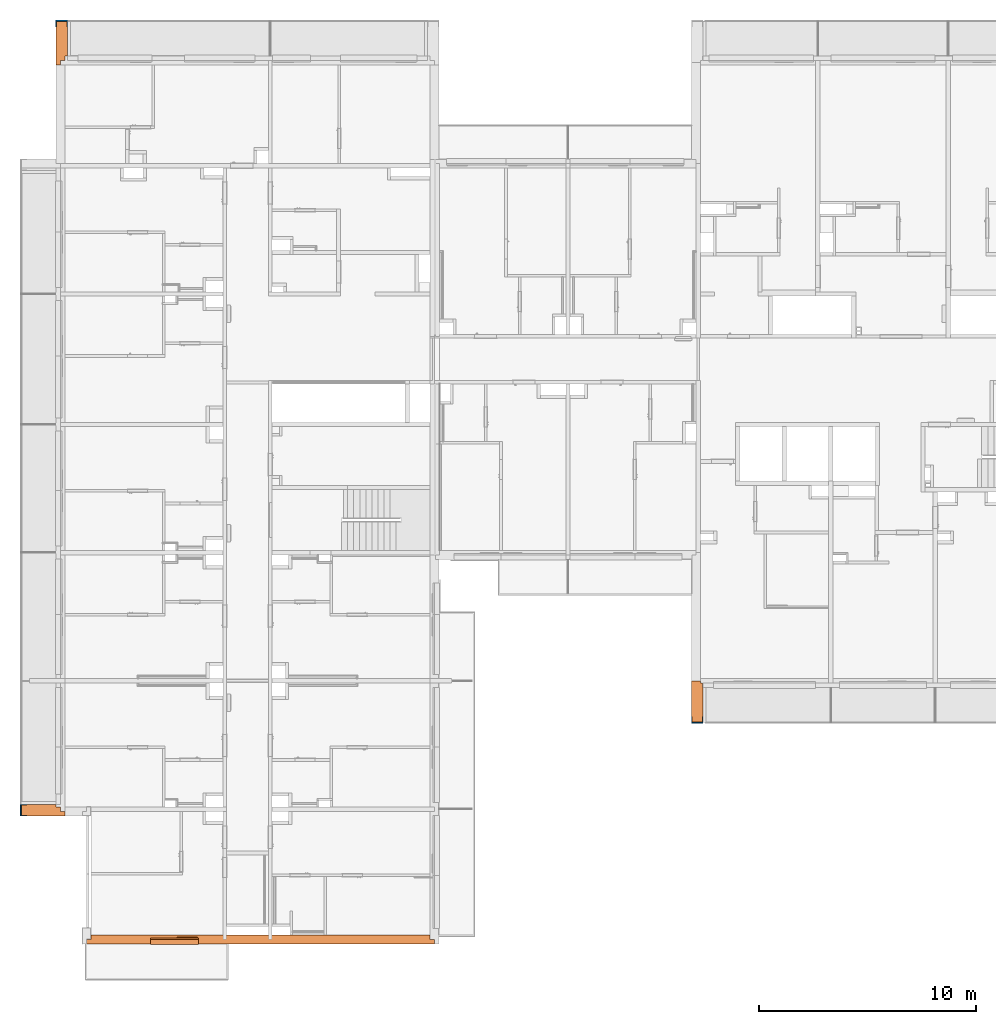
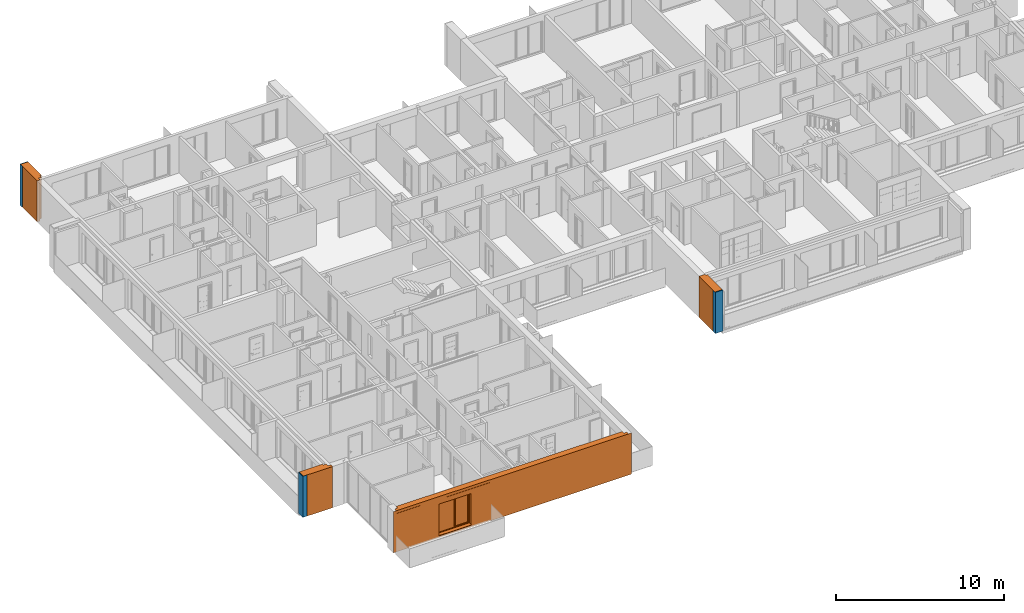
# One storey, part 47 of 66: 5 proxies, 3 walls, 4 openings.
"""IFC2X3 building model written with IfcOpenShell, lengths in millimetres."""

from ifc_helpers import new_model, entity, si_unit, converted_unit, derived_unit, money_unit, direction, frame, origin_with_axes, origin_2d_with_axis, place, context, subcontext, project, spatial, rectangle, extrude, open_shell, faceted_brep, surface_model, source, transform, mapped, material, material_list, type_object, element, fill, save


model = new_model("IFC2X3")

# Units and contexts
model_context = context("Model", 3, precision=0.01, world=origin_with_axes(), true_north=direction((0.34421633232, 0.938890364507)))
body_context = subcontext(model_context, "Body", "Model", "MODEL_VIEW")
ifc_project = project(units=[si_unit("LENGTHUNIT", "METRE", prefix="MILLI"), si_unit("AREAUNIT", "SQUARE_METRE"), si_unit("VOLUMEUNIT", "CUBIC_METRE"), converted_unit("PLANEANGLEUNIT", "DEGREE", entity("IfcPlaneAngleMeasure", 0.0174532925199), si_unit("PLANEANGLEUNIT", "RADIAN"), dimensions=[0, 0, 0, 0, 0, 0, 0]), si_unit("SOLIDANGLEUNIT", "STERADIAN"), money_unit("USD"), converted_unit("TIMEUNIT", "Year", entity("IfcTimeMeasure", 31556926.0), si_unit("TIMEUNIT", "SECOND"), dimensions=[0, 0, 1, 0, 0, 0, 0]), si_unit("MASSUNIT", "GRAM", prefix="KILO"), si_unit("THERMODYNAMICTEMPERATUREUNIT", "DEGREE_CELSIUS"), si_unit("LUMINOUSINTENSITYUNIT", "LUMEN"), si_unit("ENERGYUNIT", "JOULE", prefix="MEGA"), derived_unit("THERMALCONDUCTANCEUNIT", [(si_unit("POWERUNIT", "WATT"), 1), (si_unit("LENGTHUNIT", "METRE"), -1), (si_unit("THERMODYNAMICTEMPERATUREUNIT", "KELVIN"), -1)]), derived_unit("SPECIFICHEATCAPACITYUNIT", [(si_unit("ENERGYUNIT", "JOULE"), 1), (si_unit("MASSUNIT", "GRAM", prefix="KILO"), -1), (si_unit("THERMODYNAMICTEMPERATUREUNIT", "KELVIN"), -1)]), derived_unit("MASSDENSITYUNIT", [(si_unit("MASSUNIT", "GRAM", prefix="KILO"), 1), (si_unit("VOLUMEUNIT", "CUBIC_METRE"), -1)])], contexts=[model_context])

# Site, building, storey
site_placement = place(None, origin_with_axes())
site = spatial("IfcSite", under=ifc_project, at=site_placement, Name="USTRONIE MORSKIE", CompositionType="ELEMENT")
building_placement = place(site_placement, origin_with_axes())
building = spatial("IfcBuilding", under=site, at=building_placement, Name="Budynek", CompositionType="ELEMENT")
storey_placement = place(building_placement, frame((0.0, 0.0, 10000.0), z_axis=(0.0, 0.0, 1.0), x_axis=(1.0, 0.0, 0.0)))
storey = spatial("IfcBuildingStorey", under=building, at=storey_placement, Name="PIĘTRO 3", CompositionType="ELEMENT", Elevation=10000.0)

# Proxies, opening
ifc_material_1 = material(Name="Tynk zewnętrzny")
ifc_material_2 = material(Name="Wełna ELEW")
ifc_material_3 = material(Name="Beton konstrukcyjny B25")
ifc_material_list_1 = material_list([ifc_material_1, ifc_material_2, ifc_material_3])
building_element_proxy_type_1 = type_object("IfcBuildingElementProxyType", Name="20+20 410", PredefinedType="NOTDEFINED")
proxy_1_placement = place(storey_placement, frame((367067.957311, 709201.199036, -160.0), z_axis=(0.0, 0.0, 1.0), x_axis=(-1.0, 0.0, 0.0)))
proxy_1 = element("IfcBuildingElementProxy", 1, at=proxy_1_placement, inside=storey, type_object=building_element_proxy_type_1, material=ifc_material_list_1, Name="SZ-01", context=body_context, shape_type="Brep", body=[
    faceted_brep([(15900.0368073, 299.99990748, 2800.0), (9450.03639181, 300.000003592, 2800.0), (9450.03639181, 300.000003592, 3000.0), (-300.000630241, 300.0, 3000.0), (-300.000630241, 300.0, 0.0), (9450.03639181, 300.0, 0.0), (9450.03639181, 300.0, 110.0), (15900.0363918, 300.0, 110.0), (15900.0363918, 300.0, 0.0), (16100.0363918, 300.0, 0.0), (16100.0363918, 300.0, 3000.0), (15900.0368073, 299.99990748, 3000.0), (15900.0368281, 310.0, 2800.0), (9450.03639181, 310.0, 2800.0), (9450.03639181, 310.0, 3000.0), (-300.000651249, 310.0, 3000.0), (-300.000651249, 310.0, 0.0), (9450.03639181, 310.0, 0.0), (9450.03639181, 310.0, 110.0), (15900.0363918, 310.0, 110.0), (15900.0363918, 310.0, 0.0), (16100.0363918, 310.0, 0.0), (16100.0363918, 310.0, 3000.0), (15900.0368281, 310.0, 3000.0)], [[[0, 1, 2, 3, 4, 5, 6, 7, 8, 9, 10, 11]], [[1, 0, 12, 13]], [[14, 2, 1, 13]], [[2, 14, 15, 3]], [[4, 3, 15, 16]], [[17, 5, 4, 16]], [[18, 6, 5, 17]], [[7, 6, 18, 19]], [[7, 19, 20, 8]], [[8, 20, 21, 9]], [[22, 10, 9, 21]], [[23, 11, 10, 22]], [[0, 11, 23, 12]], [[12, 23, 22, 21, 20, 19, 18, 17, 16, 15, 14, 13]]]),
    faceted_brep([(15900.0363918, 100.0, 3000.0), (15900.0363918, 300.0, 3000.0), (-100.000630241, 300.0, 3000.0), (-100.00021008, 100.0, 3000.0), (15900.0363918, 100.0, 0.0), (15900.0363918, 300.0, 0.0), (-100.000630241, 300.0, 0.0), (-100.00021008, 100.0, 0.0)], [[[0, 1, 2, 3]], [[1, 0, 4, 5]], [[1, 5, 6, 2]], [[7, 3, 2, 6]], [[4, 0, 3, 7]], [[5, 4, 7, 6]]]),
    faceted_brep([(9630.03639181, -100.0, 2800.0), (9630.03639181, -100.0, 0.0), (15700.0363918, -100.0, 0.0), (15700.0363918, -100.0, 3000.0), (100.00021008, -100.0, 3000.0), (100.00021008, -100.0, 0.0), (7370.03639181, -100.0, 0.0), (7370.03639181, -100.0, 2800.0), (7530.03639181, -100.0, 2800.0), (7530.03639181, -100.0, 0.0), (9470.03639181, -100.0, 0.0), (9470.03639181, -100.0, 2800.0), (9630.03639181, 100.0, 2800.0), (9630.03639181, 100.0, 0.0), (15700.0363918, 100.0, 0.0), (15700.0363918, 100.0, 3000.0), (99.9997899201, 100.0, 3000.0), (99.9997899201, 100.0, 0.0), (7370.03639181, 100.0, 0.0), (7370.03639181, 100.0, 2800.0), (7530.03639181, 100.0, 2800.0), (7530.03639181, 100.0, 0.0), (9470.03639181, 100.0, 0.0), (9470.03639181, 100.0, 2800.0)], [[[0, 1, 2, 3, 4, 5, 6, 7, 8, 9, 10, 11]], [[1, 0, 12, 13]], [[1, 13, 14, 2]], [[15, 3, 2, 14]], [[3, 15, 16, 4]], [[5, 4, 16, 17]], [[18, 6, 5, 17]], [[7, 6, 18, 19]], [[8, 7, 19, 20]], [[9, 8, 20, 21]], [[22, 10, 9, 21]], [[11, 10, 22, 23]], [[0, 11, 23, 12]], [[23, 22, 21, 20, 19, 18, 17, 16, 15, 14, 13, 12]]]),
])
opening_1_placement = place(proxy_1_placement, frame((11860.0397091, 0.0, 160.0), z_axis=(0.0, 0.0, 1.0), x_axis=(1.0, 0.0, 0.0)))
opening_1 = element("IfcOpeningElement", 2, at=opening_1_placement, cuts=proxy_1, Name="Wz.01", context=body_context, shape_type="SweptSolid", body=[
    extrude(rectangle(XDim=2220.00663467, YDim=2300.0, at=origin_2d_with_axis()), frame((0.0, 99.9999999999, 1150.0), z_axis=(0.0, -1.0, 0.0), x_axis=(-1.0, 0.0, 0.0)), (0.0, 0.0, -1.0), 620.0),
    extrude(rectangle(XDim=2220.00663467, YDim=2300.0, at=origin_2d_with_axis()), frame((0.0, 100.0, 1150.0), z_axis=(0.0, 1.0, 0.0), x_axis=(-1.0, 0.0, 0.0)), (0.0, 0.0, -1.0), 610.0),
])
building_element_proxy_type_2 = type_object("IfcBuildingElementProxyType", Name="Okno podwójne 23", PredefinedType="NOTDEFINED")
shared_shape_1 = source(origin_with_axes(), body_context, "Body", "SurfaceModel", [
    surface_model("IfcShellBasedSurfaceModel", [(-1110.00331734, -66.0, 50.0), (-1110.00331734, -66.0, 40.0), (1110.00331734, -66.0, 40.0), (1110.00331734, -66.0, 50.0), (-1110.00331734, -305.0, 28.5714285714), (1110.00331734, -305.0, 28.5714285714), (-1110.00331734, -305.0, 8.57142857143), (1110.00331734, -305.0, 8.57142857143), (-1110.00331734, -295.0, 18.5714285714), (1110.00331734, -295.0, 18.5714285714)], [open_shell([[[0, 1, 2, 3]], [[1, 4, 5, 2]], [[4, 6, 7, 5]], [[6, 8, 9, 7]]])]),
    faceted_brep([(1040.00331734, -25.0, 2230.0), (1040.00331734, -65.0, 2230.0), (1110.00331734, -65.0, 2230.0), (1110.00331734, 0.0, 2230.0), (1065.00331734, 0.0, 2230.0), (1065.00331734, -25.0, 2230.0), (1040.00331734, -25.0, 70.0), (1040.00331734, -65.0, 70.0), (1110.00331734, -65.0, 70.0), (1110.00331734, 0.0, 70.0), (1065.00331734, 0.0, 70.0), (1065.00331734, -25.0, 70.0)], [[[0, 1, 2, 3, 4, 5]], [[6, 7, 1, 0]], [[8, 2, 1, 7]], [[9, 3, 2, 8]], [[4, 3, 9, 10]], [[10, 11, 5, 4]], [[5, 11, 6, 0]], [[11, 10, 9, 8, 7, 6]]]),
    faceted_brep([(112.503317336, 0.0, 2230.0), (72.5033173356, 0.0, 2230.0), (72.5033173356, -65.0, 2230.0), (137.503317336, -65.0, 2230.0), (137.503317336, -25.0, 2230.0), (112.503317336, -25.0, 2230.0), (112.503317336, 0.0, 70.0), (72.5033173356, 0.0, 70.0), (72.5033173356, -65.0, 70.0), (137.503317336, -65.0, 70.0), (137.503317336, -25.0, 70.0), (112.503317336, -25.0, 70.0)], [[[0, 1, 2, 3, 4, 5]], [[6, 7, 1, 0]], [[1, 7, 8, 2]], [[9, 3, 2, 8]], [[4, 3, 9, 10]], [[10, 11, 5, 4]], [[5, 11, 6, 0]], [[11, 10, 9, 8, 7, 6]]]),
    faceted_brep([(1040.00331734, -25.0, 70.0), (1040.00331734, -65.0, 70.0), (1110.00331734, -65.0, 70.0), (1110.00331734, 0.0, 70.0), (1065.00331734, 0.0, 70.0), (1065.00331734, -25.0, 70.0), (137.503317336, -25.0, 70.0), (137.503317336, -65.0, 70.0), (-1110.00331734, -65.0, 70.0), (-1110.00331734, -65.0, 0.0), (1110.00331734, -65.0, 0.0), (72.5033173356, -65.0, 70.0), (-1040.00331734, -65.0, 70.0), (1110.00331734, 0.0, 0.0), (112.503317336, 0.0, 45.0), (1065.00331734, 0.0, 45.0), (-1110.00331734, 0.0, 0.0), (-1110.00331734, 0.0, 70.0), (-1040.00331734, 0.0, 70.0), (72.5033173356, 0.0, 70.0), (112.503317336, 0.0, 70.0), (1065.00331734, -25.0, 45.0), (112.503317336, -25.0, 45.0), (112.503317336, -25.0, 70.0)], [[[0, 1, 2, 3, 4, 5]], [[6, 7, 1, 0]], [[8, 9, 10, 2, 1, 7, 11, 12]], [[13, 3, 2, 10]], [[14, 15, 4, 3, 13, 16, 17, 18, 19, 20]], [[15, 21, 5, 4]], [[5, 21, 22, 23, 6, 0]], [[23, 20, 19, 11, 7, 6]], [[17, 16, 9, 8]], [[16, 13, 10, 9]], [[19, 18, 12, 11]], [[18, 17, 8, 12]], [[14, 22, 21, 15]], [[23, 22, 14, 20]]]),
    faceted_brep([(112.503317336, 0.0, 2230.0), (72.5033173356, 0.0, 2230.0), (-1040.00331734, 0.0, 2230.0), (-1110.00331734, 0.0, 2230.0), (-1110.00331734, 0.0, 2300.0), (1110.00331734, 0.0, 2300.0), (1110.00331734, 0.0, 2230.0), (1065.00331734, 0.0, 2230.0), (1065.00331734, 0.0, 2255.0), (112.503317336, 0.0, 2255.0), (112.503317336, -25.0, 2230.0), (137.503317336, -25.0, 2230.0), (137.503317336, -65.0, 2230.0), (72.5033173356, -65.0, 2230.0), (-1040.00331734, -65.0, 2230.0), (-1110.00331734, -65.0, 2230.0), (-1110.00331734, -65.0, 2300.0), (1110.00331734, -65.0, 2300.0), (1110.00331734, -65.0, 2230.0), (1065.00331734, -25.0, 2230.0), (1040.00331734, -65.0, 2230.0), (1040.00331734, -25.0, 2230.0), (1065.00331734, -25.0, 2255.0), (112.503317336, -25.0, 2255.0)], [[[0, 1, 2, 3, 4, 5, 6, 7, 8, 9]], [[10, 11, 12, 13, 1, 0]], [[2, 1, 13, 14]], [[3, 2, 14, 15]], [[4, 3, 15, 16]], [[5, 4, 16, 17]], [[6, 5, 17, 18]], [[19, 7, 6, 18, 20, 21]], [[7, 19, 22, 8]], [[8, 22, 23, 9]], [[9, 23, 10, 0]], [[21, 11, 10, 23, 22, 19]], [[21, 20, 12, 11]], [[12, 20, 18, 17, 16, 15, 14, 13]]]),
    faceted_brep([(-1040.00331734, -65.0, 2230.0), (-1040.00331734, 0.0, 2230.0), (-1110.00331734, 0.0, 2230.0), (-1110.00331734, -65.0, 2230.0), (-1040.00331734, -65.0, 70.0), (-1040.00331734, 0.0, 70.0), (-1110.00331734, 0.0, 70.0), (-1110.00331734, -65.0, 70.0)], [[[0, 1, 2, 3]], [[4, 5, 1, 0]], [[1, 5, 6, 2]], [[3, 2, 6, 7]], [[0, 3, 7, 4]], [[7, 6, 5, 4]]]),
    surface_model("IfcShellBasedSurfaceModel", [(-1040.00331734, -35.0, 70.0), (72.5033173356, -35.0, 70.0), (72.5033173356, -35.0, 2230.0), (-1040.00331734, -35.0, 2230.0)], [open_shell([[[0, 1, 2, 3]]])]),
    surface_model("IfcShellBasedSurfaceModel", [(-1040.00331734, -15.0, 70.0), (-1040.00331734, -15.0, 2230.0), (72.5033173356, -15.0, 2230.0), (72.5033173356, -15.0, 70.0)], [open_shell([[[0, 1, 2, 3]]])]),
    faceted_brep([(177.503317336, -25.0, 2190.0), (177.503317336, 40.0, 2190.0), (112.503317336, 40.0, 2190.0), (112.503317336, -25.0, 2190.0), (177.503317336, -25.0, 110.0), (177.503317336, 40.0, 110.0), (112.503317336, 40.0, 110.0), (112.503317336, -25.0, 110.0)], [[[0, 1, 2, 3]], [[4, 5, 1, 0]], [[1, 5, 6, 2]], [[3, 2, 6, 7]], [[0, 3, 7, 4]], [[7, 6, 5, 4]]]),
    faceted_brep([(1000.00331734, -25.0, 110.0), (1000.00331734, 40.0, 110.0), (1065.00331734, 40.0, 110.0), (1065.00331734, -25.0, 110.0), (1000.00331734, -25.0, 2190.0), (1000.00331734, 40.0, 2190.0), (1065.00331734, 40.0, 2190.0), (1065.00331734, -25.0, 2190.0)], [[[0, 1, 2, 3]], [[4, 5, 1, 0]], [[1, 5, 6, 2]], [[3, 2, 6, 7]], [[0, 3, 7, 4]], [[7, 6, 5, 4]]]),
    faceted_brep([(1065.00331734, -25.0, 45.0), (1065.00331734, 40.0, 45.0), (1065.00331734, 40.0, 110.0), (1065.00331734, -25.0, 110.0), (112.503317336, -25.0, 45.0), (112.503317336, 40.0, 45.0), (112.503317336, 40.0, 110.0), (177.503317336, 40.0, 110.0), (1000.00331734, 40.0, 110.0), (1000.00331734, -25.0, 110.0), (177.503317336, -25.0, 110.0), (112.503317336, -25.0, 110.0)], [[[0, 1, 2, 3]], [[4, 5, 1, 0]], [[1, 5, 6, 7, 8, 2]], [[3, 2, 8, 9]], [[0, 3, 9, 10, 11, 4]], [[11, 6, 5, 4]], [[10, 7, 6, 11]], [[9, 8, 7, 10]]]),
    faceted_brep([(112.503317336, -25.0, 2255.0), (112.503317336, 40.0, 2255.0), (112.503317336, 40.0, 2190.0), (112.503317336, -25.0, 2190.0), (1065.00331734, -25.0, 2255.0), (1065.00331734, 40.0, 2255.0), (1065.00331734, 40.0, 2190.0), (1000.00331734, 40.0, 2190.0), (177.503317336, 40.0, 2190.0), (177.503317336, -25.0, 2190.0), (1000.00331734, -25.0, 2190.0), (1065.00331734, -25.0, 2190.0)], [[[0, 1, 2, 3]], [[4, 5, 1, 0]], [[1, 5, 6, 7, 8, 2]], [[3, 2, 8, 9]], [[0, 3, 9, 10, 11, 4]], [[11, 6, 5, 4]], [[10, 7, 6, 11]], [[9, 8, 7, 10]]]),
    surface_model("IfcShellBasedSurfaceModel", [(177.503317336, -2.5, 110.0), (1000.00331734, -2.5, 110.0), (1000.00331734, -2.5, 2190.0), (177.503317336, -2.5, 2190.0)], [open_shell([[[0, 1, 2, 3]]])]),
    surface_model("IfcShellBasedSurfaceModel", [(177.503317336, 17.5, 110.0), (177.503317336, 17.5, 2190.0), (1000.00331734, 17.5, 2190.0), (1000.00331734, 17.5, 110.0)], [open_shell([[[0, 1, 2, 3]]])]),
])
proxy_2_placement = place(opening_1_placement, frame((1110.00331734, 0.0, 0.0), z_axis=(0.0, 0.0, 1.0), x_axis=(-1.0, 0.0, 0.0)))
proxy_2 = element("IfcBuildingElementProxy", 3, at=proxy_2_placement, inside=storey, type_object=building_element_proxy_type_2, Name="Wz.01", context=body_context, shape_type="MappedRepresentation", body=[
    mapped(shared_shape_1, transform((1110.00331734, -35.0, 0.0))),
])
fill(opening_1, proxy_2)

# Proxy, opening, wall
ifc_material_list_2 = material_list([ifc_material_1, ifc_material_2, ifc_material_3, ifc_material_2, ifc_material_1])
building_element_proxy_type_3 = type_object("IfcBuildingElementProxyType", Name="BALKON bok 01 520", PredefinedType="NOTDEFINED")
proxy_3_placement = place(storey_placement, frame((350067.920919, 749451.199036, -160.0), z_axis=(0.0, 0.0, 1.0), x_axis=(0.0, 1.0, 0.0)))
proxy_3 = element("IfcBuildingElementProxy", 4, at=proxy_3_placement, inside=storey, type_object=building_element_proxy_type_3, material=ifc_material_list_2, Name="Œciana-006", context=body_context, shape_type="Brep", body=[
    faceted_brep([(-100.0, 300.0, 3000.0), (1949.99981808, 300.0, 3000.0), (1949.99981808, 310.0, 3000.0), (-100.0, 310.0, 3000.0), (-100.0, 300.0, 0.0), (1949.99981808, 300.0, 0.0), (1949.99981808, 310.0, 0.0), (-100.0, 310.0, 0.0)], [[[0, 1, 2, 3]], [[4, 5, 1, 0]], [[2, 1, 5, 6]], [[3, 2, 6, 7]], [[4, 0, 3, 7]], [[7, 6, 5, 4]]]),
    faceted_brep([(-100.0, 100.0, 3000.0), (1949.99981808, 100.0, 3000.0), (1949.99981808, 300.0, 3000.0), (-100.0, 300.0, 3000.0), (-100.0, 100.0, 0.0), (1949.99981808, 100.0, 0.0), (1949.99981808, 300.0, 0.0), (-100.0, 300.0, 0.0)], [[[0, 1, 2, 3]], [[4, 5, 1, 0]], [[2, 1, 5, 6]], [[3, 2, 6, 7]], [[4, 0, 3, 7]], [[7, 6, 5, 4]]]),
    faceted_brep([(1949.99981808, -100.0, 3000.0), (1949.99981808, 100.0, 3000.0), (100.0, 100.0, 3000.0), (100.0, -100.0, 3000.0), (1949.99981808, -100.0, 0.0), (1949.99981808, 100.0, 0.0), (100.0, 100.0, 0.0), (100.0, -100.0, 0.0)], [[[0, 1, 2, 3]], [[0, 4, 5, 1]], [[1, 5, 6, 2]], [[3, 2, 6, 7]], [[4, 0, 3, 7]], [[5, 4, 7, 6]]]),
    faceted_brep([(1949.99981808, -200.0, 3000.0), (1949.99981808, -100.0, 3000.0), (300.0, -100.0, 3000.0), (300.0, -200.0, 3000.0), (1949.99981808, -200.0, 0.0), (1949.99981808, -100.0, 0.0), (300.0, -100.0, 0.0), (300.0, -200.0, 0.0)], [[[0, 1, 2, 3]], [[0, 4, 5, 1]], [[1, 5, 6, 2]], [[3, 2, 6, 7]], [[4, 0, 3, 7]], [[5, 4, 7, 6]]]),
    faceted_brep([(1899.84617112, -209.852530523, 3000.00002271), (1909.87684774, -209.852438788, 3000.0), (1909.87684909, -210.0, 3000.00001817), (1949.99981808, -210.0, 3000.0), (1949.99981808, -200.0, 3000.0), (310.0, -200.0, 3000.0), (310.0, -209.867070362, 3000.00002271), (310.0, -209.867070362, 2789.99999183), (1909.87684774, -209.852438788, 2789.99999183), (1909.87684909, -210.0, 2789.99999183), (310.0, -210.0, 2789.99999183), (310.0, -210.0, 0.0), (1949.99981808, -210.0, 0.0), (1949.99981808, -200.0, 0.0), (310.0, -200.0, 0.0)], [[[0, 1, 2, 3, 4, 5, 6]], [[0, 6, 7, 8, 1]], [[9, 2, 1, 8]], [[9, 10, 11, 12, 3, 2]], [[4, 3, 12, 13]], [[5, 4, 13, 14]], [[7, 6, 5, 14, 11, 10]], [[10, 9, 8, 7]], [[14, 13, 12, 11]]]),
])
opening_2_placement = place(proxy_3_placement, frame((1949.99981808, 0.0, 0.0), z_axis=(0.0, 0.0, 1.0), x_axis=(1.0, 0.0, 0.0)))
opening_2 = element("IfcOpeningElement", 5, at=opening_2_placement, cuts=proxy_3, Name="ZS1", context=body_context, shape_type="SweptSolid", body=[
    extrude(rectangle(XDim=9.99999999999, YDim=50.0000000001, at=origin_2d_with_axis()), frame((-25.0000000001, 305.0, 0.0), z_axis=(0.0, 0.0, 1.0), x_axis=(0.0, -1.0, 0.0)), (0.0, 0.0, 1.0), 3000.0),
    extrude(rectangle(XDim=9.99999999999, YDim=250.0, at=origin_2d_with_axis()), frame((-175.0, 305.0, 0.0), z_axis=(0.0, 0.0, 1.0), x_axis=(0.0, -1.0, 0.0)), (0.0, 0.0, 1.0), 3000.0),
    extrude(rectangle(XDim=9.99999999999, YDim=50.0, at=origin_2d_with_axis()), frame((-25.0, -205.0, 0.0), z_axis=(0.0, 0.0, 1.0), x_axis=(0.0, -1.0, 0.0)), (0.0, 0.0, 1.0), 3000.0),
    extrude(rectangle(XDim=9.99999999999, YDim=250.0, at=origin_2d_with_axis()), frame((-175.0, -205.0, 0.0), z_axis=(0.0, 0.0, 1.0), x_axis=(0.0, -1.0, 0.0)), (0.0, 0.0, 1.0), 3000.0),
    extrude(rectangle(XDim=500.0, YDim=50.0000000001, at=origin_2d_with_axis()), frame((-25.0000000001, 50.0, 0.0), z_axis=(0.0, 0.0, 1.0), x_axis=(0.0, -1.0, 0.0)), (0.0, 0.0, 1.0), 3000.0),
])
wall_type = type_object("IfcWallType", Name="Zakończenie zamknięte 23", PredefinedType="NOTDEFINED")
shared_shape_2 = source(origin_with_axes(), body_context, "Body", "Brep", [
    faceted_brep([(0.0, 0.0, 0.0), (0.0, -50.0, 0.0), (0.0, -50.0, 3000.0), (0.0, 0.0, 3000.0), (10.0, 0.0, 0.0), (10.0, -50.0, 0.0), (10.0, -50.0, 3000.0), (10.0, 0.0, 3000.0)], [[[0, 1, 2, 3]], [[4, 5, 1, 0]], [[5, 6, 2, 1]], [[6, 7, 3, 2]], [[7, 4, 0, 3]], [[4, 7, 6, 5]]]),
    faceted_brep([(0.0, -50.0, 0.0), (0.0, -300.0, 0.0), (0.0, -300.0, 3000.0), (0.0, -50.0, 3000.0), (10.0, -50.0, 0.0), (10.0, -300.0, 0.0), (10.0, -300.0, 3000.0), (10.0, -50.0, 3000.0)], [[[0, 1, 2, 3]], [[4, 5, 1, 0]], [[5, 6, 2, 1]], [[6, 7, 3, 2]], [[7, 4, 0, 3]], [[4, 7, 6, 5]]]),
    faceted_brep([(510.0, 0.0, 0.0), (510.0, -50.0, 0.0), (510.0, -50.0, 3000.0), (510.0, 0.0, 3000.0), (520.0, 0.0, 0.0), (520.0, -50.0, 0.0), (520.0, -50.0, 3000.0), (520.0, 0.0, 3000.0)], [[[0, 1, 2, 3]], [[4, 5, 1, 0]], [[5, 6, 2, 1]], [[6, 7, 3, 2]], [[7, 4, 0, 3]], [[4, 7, 6, 5]]]),
    faceted_brep([(510.0, -50.0, 0.0), (510.0, -300.0, 0.0), (510.0, -300.0, 3000.0), (510.0, -50.0, 3000.0), (520.0, -50.0, 0.0), (520.0, -300.0, 0.0), (520.0, -300.0, 3000.0), (520.0, -50.0, 3000.0)], [[[0, 1, 2, 3]], [[4, 5, 1, 0]], [[5, 6, 2, 1]], [[6, 7, 3, 2]], [[7, 4, 0, 3]], [[4, 7, 6, 5]]]),
    faceted_brep([(10.0, 0.0, 0.0), (10.0, -50.0, 0.0), (10.0, -50.0, 3000.0), (10.0, 0.0, 3000.0), (510.0, 0.0, 0.0), (510.0, -50.0, 0.0), (510.0, -50.0, 3000.0), (510.0, 0.0, 3000.0)], [[[0, 1, 2, 3]], [[4, 5, 1, 0]], [[5, 6, 2, 1]], [[6, 7, 3, 2]], [[7, 4, 0, 3]], [[4, 7, 6, 5]]]),
])
wall_1_placement = place(opening_2_placement, frame((150.0, 0.0, 0.0), z_axis=(0.0, 0.0, 1.0), x_axis=(-1.0, 0.0, 0.0)))
wall_1 = element("IfcWall", 6, at=wall_1_placement, inside=storey, type_object=wall_type, material=ifc_material_1, Name="ZS1", context=body_context, shape_type="MappedRepresentation", body=[
    mapped(shared_shape_2, transform((150.0, -310.0, 0.0), x_axis=(0.0, 1.0, 0.0), y_axis=(-1.0, 0.0, 0.0), z_axis=(0.0, 0.0, 1.0))),
])
fill(opening_2, wall_1)

proxy_4_placement = place(storey_placement, frame((379317.920919, 721001.199036, -160.0), z_axis=(0.0, 0.0, 1.0), x_axis=(0.0, -1.0, 0.0)))
proxy_4 = element("IfcBuildingElementProxy", 7, at=proxy_4_placement, inside=storey, type_object=building_element_proxy_type_3, material=ifc_material_list_2, Name="Œciana-006", context=body_context, shape_type="Brep", body=[
    faceted_brep([(1949.99981809, 210.0, 0.0), (300.0, 210.0, 0.0), (300.0, 210.0, 3000.0), (1949.99981809, 210.0, 3000.0), (1949.99981809, 200.0, 0.0), (300.0, 200.0, 0.0), (300.0, 200.0, 3000.0), (1949.99981809, 200.0, 3000.0)], [[[0, 1, 2, 3]], [[4, 5, 1, 0]], [[5, 6, 2, 1]], [[3, 2, 6, 7]], [[3, 7, 4, 0]], [[7, 6, 5, 4]]]),
    faceted_brep([(100.0, 200.0, 0.0), (100.0, 200.0, 3000.0), (1949.99981809, 200.0, 3000.0), (1949.99981809, 200.0, 0.0), (100.0, 100.000005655, 3000.0), (100.0, 100.000005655, 0.0), (1949.99981809, 100.0, 3000.0), (1949.99981809, 100.0, 0.0)], [[[0, 1, 2, 3]], [[4, 1, 0, 5]], [[1, 4, 6, 2]], [[6, 7, 3, 2]], [[5, 0, 3, 7]], [[4, 5, 7, 6]]]),
    faceted_brep([(0.0, -100.0, 0.0), (0.0, 100.0, 0.0), (1949.99981809, 100.0, 0.0), (1949.99981809, -100.0, 0.0), (0.0, -100.0, 3000.0), (0.0, 100.0, 3000.0), (1949.99981809, 100.0, 3000.0), (1949.99981809, -100.0, 3000.0)], [[[0, 1, 2, 3]], [[4, 5, 1, 0]], [[1, 5, 6, 2]], [[7, 3, 2, 6]], [[4, 0, 3, 7]], [[5, 4, 7, 6]]]),
    faceted_brep([(0.0, -100.0, 0.0), (1949.99981809, -100.0, 0.0), (1949.99981809, -300.0, 0.0), (0.0, -300.0, 0.0), (0.0, -100.0, 3000.0), (1949.99981809, -100.0, 3000.0), (1949.99981809, -300.0, 3000.0), (0.0, -300.0, 3000.0)], [[[0, 1, 2, 3]], [[4, 5, 1, 0]], [[2, 1, 5, 6]], [[3, 2, 6, 7]], [[4, 0, 3, 7]], [[7, 6, 5, 4]]]),
    faceted_brep([(0.0, -300.0, 0.0), (1949.99981809, -300.0, 0.0), (1949.99981809, -310.0, 0.0), (0.0, -310.0, 0.0), (0.0, -300.0, 3000.0), (1949.99981809, -300.0, 3000.0), (1949.99981809, -310.0, 3000.0), (0.0, -310.0, 3000.0)], [[[0, 1, 2, 3]], [[4, 5, 1, 0]], [[2, 1, 5, 6]], [[3, 2, 6, 7]], [[4, 0, 3, 7]], [[7, 6, 5, 4]]]),
])
opening_3_placement = place(proxy_4_placement, frame((1949.99981809, 0.0, 0.0), z_axis=(0.0, 0.0, 1.0), x_axis=(1.0, 0.0, 0.0)))
opening_3 = element("IfcOpeningElement", 8, at=opening_3_placement, cuts=proxy_4, Name="ZS1", context=body_context, shape_type="SweptSolid", body=[
    extrude(rectangle(XDim=9.99999999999, YDim=50.0000000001, at=origin_2d_with_axis()), frame((-25.0, 205.0, 0.0), z_axis=(0.0, 0.0, 1.0), x_axis=(0.0, -1.0, 0.0)), (0.0, 0.0, 1.0), 3000.0),
    extrude(rectangle(XDim=9.99999999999, YDim=250.0, at=origin_2d_with_axis()), frame((-175.0, 205.0, 0.0), z_axis=(0.0, 0.0, 1.0), x_axis=(0.0, -1.0, 0.0)), (0.0, 0.0, 1.0), 3000.0),
    extrude(rectangle(XDim=9.99999999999, YDim=50.0000000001, at=origin_2d_with_axis()), frame((-25.0000000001, -305.0, 0.0), z_axis=(0.0, 0.0, 1.0), x_axis=(0.0, -1.0, 0.0)), (0.0, 0.0, 1.0), 3000.0),
    extrude(rectangle(XDim=9.99999999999, YDim=250.0, at=origin_2d_with_axis()), frame((-175.0, -305.0, 0.0), z_axis=(0.0, 0.0, 1.0), x_axis=(0.0, -1.0, 0.0)), (0.0, 0.0, 1.0), 3000.0),
    extrude(rectangle(XDim=500.0, YDim=50.0000000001, at=origin_2d_with_axis()), frame((-25.0000000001, -50.0, 0.0), z_axis=(0.0, 0.0, 1.0), x_axis=(0.0, -1.0, 0.0)), (0.0, 0.0, 1.0), 3000.0),
])
shared_shape_3 = source(origin_with_axes(), body_context, "Body", "Brep", [
    faceted_brep([(0.0, 0.0, 0.0), (0.0, -50.0, 0.0), (0.0, -50.0, 3000.0), (0.0, 0.0, 3000.0), (10.0, 0.0, 0.0), (10.0, -50.0, 0.0), (10.0, -50.0, 3000.0), (10.0, 0.0, 3000.0)], [[[0, 1, 2, 3]], [[4, 5, 1, 0]], [[5, 6, 2, 1]], [[6, 7, 3, 2]], [[7, 4, 0, 3]], [[4, 7, 6, 5]]]),
    faceted_brep([(0.0, -50.0, 0.0), (0.0, -300.0, 0.0), (0.0, -300.0, 3000.0), (0.0, -50.0, 3000.0), (10.0, -50.0, 0.0), (10.0, -300.0, 0.0), (10.0, -300.0, 3000.0), (10.0, -50.0, 3000.0)], [[[0, 1, 2, 3]], [[4, 5, 1, 0]], [[5, 6, 2, 1]], [[6, 7, 3, 2]], [[7, 4, 0, 3]], [[4, 7, 6, 5]]]),
    faceted_brep([(510.0, 0.0, 0.0), (510.0, -50.0, 0.0), (510.0, -50.0, 3000.0), (510.0, 0.0, 3000.0), (520.0, 0.0, 0.0), (520.0, -50.0, 0.0), (520.0, -50.0, 3000.0), (520.0, 0.0, 3000.0)], [[[0, 1, 2, 3]], [[4, 5, 1, 0]], [[5, 6, 2, 1]], [[6, 7, 3, 2]], [[7, 4, 0, 3]], [[4, 7, 6, 5]]]),
    faceted_brep([(510.0, -50.0, 0.0), (510.0, -300.0, 0.0), (510.0, -300.0, 3000.0), (510.0, -50.0, 3000.0), (520.0, -50.0, 0.0), (520.0, -300.0, 0.0), (520.0, -300.0, 3000.0), (520.0, -50.0, 3000.0)], [[[0, 1, 2, 3]], [[4, 5, 1, 0]], [[5, 6, 2, 1]], [[6, 7, 3, 2]], [[7, 4, 0, 3]], [[4, 7, 6, 5]]]),
    faceted_brep([(10.0, 0.0, 0.0), (10.0, -50.0, 0.0), (10.0, -50.0, 3000.0), (10.0, 0.0, 3000.0), (510.0, 0.0, 0.0), (510.0, -50.0, 0.0), (510.0, -50.0, 3000.0), (510.0, 0.0, 3000.0)], [[[0, 1, 2, 3]], [[4, 5, 1, 0]], [[5, 6, 2, 1]], [[6, 7, 3, 2]], [[7, 4, 0, 3]], [[4, 7, 6, 5]]]),
])
wall_2_placement = place(opening_3_placement, frame((-150.0, 0.0, 0.0), z_axis=(0.0, 0.0, 1.0), x_axis=(1.0, 0.0, 0.0)))
wall_2 = element("IfcWall", 9, at=wall_2_placement, inside=storey, type_object=wall_type, material=ifc_material_1, Name="ZS1", context=body_context, shape_type="MappedRepresentation", body=[
    mapped(shared_shape_3, transform((150.0, 210.0, 0.0), x_axis=(0.0, -1.0, 0.0), y_axis=(1.0, 0.0, 0.0), z_axis=(0.0, 0.0, 1.0))),
])
fill(opening_3, wall_2)

proxy_5_placement = place(storey_placement, frame((350067.920919, 715101.199036, -160.0), z_axis=(0.0, 0.0, 1.0), x_axis=(-1.0, 0.0, 0.0)))
proxy_5 = element("IfcBuildingElementProxy", 10, at=proxy_5_placement, inside=storey, type_object=building_element_proxy_type_3, material=ifc_material_list_2, Name="Œciana-006", context=body_context, shape_type="Brep", body=[
    faceted_brep([(-100.0, 300.0, 3000.0), (1949.99981809, 300.0, 3000.0), (1949.99981809, 310.0, 3000.0), (-100.0, 310.0, 3000.0), (-100.0, 300.0, 0.0), (1949.99981809, 300.0, 0.0), (1949.99981809, 310.0, 0.0), (-100.0, 310.0, 0.0)], [[[0, 1, 2, 3]], [[4, 5, 1, 0]], [[2, 1, 5, 6]], [[3, 2, 6, 7]], [[4, 0, 3, 7]], [[7, 6, 5, 4]]]),
    faceted_brep([(-100.0, 100.0, 3000.0), (1949.99981809, 100.0, 3000.0), (1949.99981809, 300.0, 3000.0), (-100.0, 300.0, 3000.0), (-100.0, 100.0, 0.0), (1949.99981809, 100.0, 0.0), (1949.99981809, 300.0, 0.0), (-100.0, 300.0, 0.0)], [[[0, 1, 2, 3]], [[4, 5, 1, 0]], [[2, 1, 5, 6]], [[3, 2, 6, 7]], [[4, 0, 3, 7]], [[7, 6, 5, 4]]]),
    faceted_brep([(1949.99981809, -100.0, 3000.0), (1949.99981809, 100.0, 3000.0), (100.0, 100.0, 3000.0), (100.0, -100.0, 3000.0), (1949.99981809, -100.0, 0.0), (1949.99981809, 100.0, 0.0), (100.0, 100.0, 0.0), (100.0, -100.0, 0.0)], [[[0, 1, 2, 3]], [[0, 4, 5, 1]], [[1, 5, 6, 2]], [[3, 2, 6, 7]], [[4, 0, 3, 7]], [[5, 4, 7, 6]]]),
    faceted_brep([(1949.99981809, -200.0, 3000.0), (1949.99981809, -100.0, 3000.0), (300.0, -100.0, 3000.0), (300.0, -200.0, 3000.0), (1949.99981809, -200.0, 0.0), (1949.99981809, -100.0, 0.0), (300.0, -100.0, 0.0), (300.0, -200.0, 0.0)], [[[0, 1, 2, 3]], [[0, 4, 5, 1]], [[1, 5, 6, 2]], [[3, 2, 6, 7]], [[4, 0, 3, 7]], [[5, 4, 7, 6]]]),
    faceted_brep([(310.0, -210.0, 3000.0), (1949.99981809, -210.0, 3000.0), (1949.99981809, -200.0, 3000.0), (310.0, -200.0, 3000.0), (310.0, -210.0, 0.0), (1949.99981809, -210.0, 0.0), (1949.99981809, -200.0, 0.0), (310.0, -200.0, 0.0)], [[[0, 1, 2, 3]], [[4, 5, 1, 0]], [[2, 1, 5, 6]], [[3, 2, 6, 7]], [[4, 0, 3, 7]], [[7, 6, 5, 4]]]),
])
opening_4_placement = place(proxy_5_placement, frame((1949.99981809, 0.0, 0.0), z_axis=(0.0, 0.0, 1.0), x_axis=(1.0, 0.0, 0.0)))
opening_4 = element("IfcOpeningElement", 11, at=opening_4_placement, cuts=proxy_5, Name="ZS1", context=body_context, shape_type="SweptSolid", body=[
    extrude(rectangle(XDim=9.99999999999, YDim=50.0, at=origin_2d_with_axis()), frame((-25.0, 305.0, 0.0), z_axis=(0.0, 0.0, 1.0), x_axis=(0.0, -1.0, 0.0)), (0.0, 0.0, 1.0), 3000.0),
    extrude(rectangle(XDim=9.99999999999, YDim=250.0, at=origin_2d_with_axis()), frame((-175.0, 305.0, 0.0), z_axis=(0.0, 0.0, 1.0), x_axis=(0.0, -1.0, 0.0)), (0.0, 0.0, 1.0), 3000.0),
    extrude(rectangle(XDim=9.99999999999, YDim=50.0, at=origin_2d_with_axis()), frame((-25.0, -205.0, 0.0), z_axis=(0.0, 0.0, 1.0), x_axis=(0.0, -1.0, 0.0)), (0.0, 0.0, 1.0), 3000.0),
    extrude(rectangle(XDim=9.99999999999, YDim=250.0, at=origin_2d_with_axis()), frame((-175.0, -205.0, 0.0), z_axis=(0.0, 0.0, 1.0), x_axis=(0.0, -1.0, 0.0)), (0.0, 0.0, 1.0), 3000.0),
    extrude(rectangle(XDim=500.0, YDim=50.0, at=origin_2d_with_axis()), frame((-25.0, 50.0, 0.0), z_axis=(0.0, 0.0, 1.0), x_axis=(0.0, -1.0, 0.0)), (0.0, 0.0, 1.0), 3000.0),
])
wall_3_placement = place(opening_4_placement, frame((150.0, 0.0, 0.0), z_axis=(0.0, 0.0, 1.0), x_axis=(-1.0, 0.0, 0.0)))
wall_3 = element("IfcWall", 12, at=wall_3_placement, inside=storey, type_object=wall_type, material=ifc_material_1, Name="ZS1", context=body_context, shape_type="MappedRepresentation", body=[
    mapped(shared_shape_2, transform((150.0, -310.0, 0.0), x_axis=(0.0, 1.0, 0.0), y_axis=(-1.0, 0.0, 0.0), z_axis=(0.0, 0.0, 1.0))),
])
fill(opening_4, wall_3)

save(model, "model.ifc")
